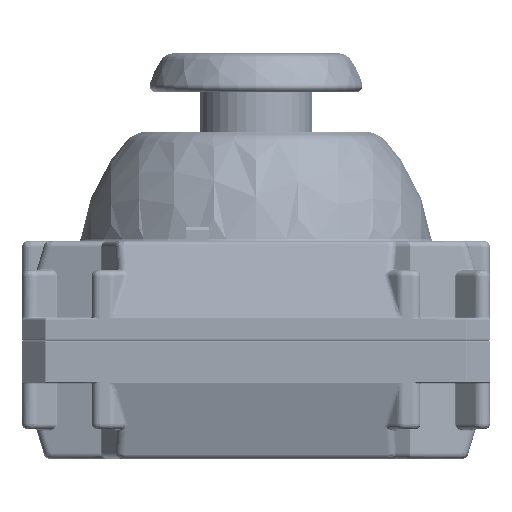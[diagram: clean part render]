
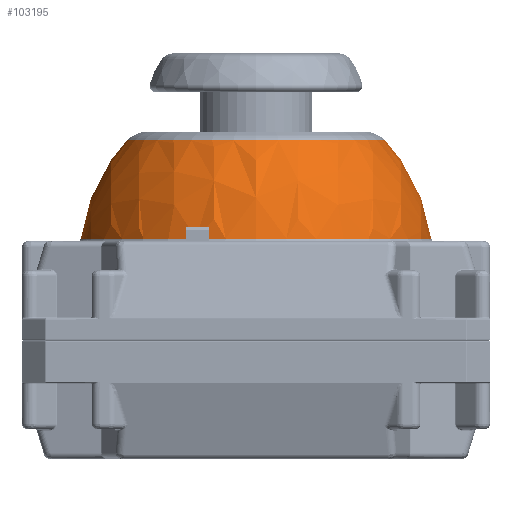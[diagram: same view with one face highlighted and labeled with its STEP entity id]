
A CAD part, front view. The second image highlights one B-rep face of the part: STEP entity #103195.
In plain terms, the highlighted spherical face has radius 15.1 mm.
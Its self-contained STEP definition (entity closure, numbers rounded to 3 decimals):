
#842=SPHERICAL_SURFACE('',#112326,15.1);
#1009=FACE_BOUND('',#32235,.T.);
#26001=FACE_OUTER_BOUND('',#32234,.T.);
#32234=EDGE_LOOP('',(#79223));
#32235=EDGE_LOOP('',(#79224));
#39590=CIRCLE('',#112324,11.035);
#39592=CIRCLE('',#112327,14.978);
#46997=VERTEX_POINT('',#175111);
#46998=VERTEX_POINT('',#175115);
#58779=EDGE_CURVE('',#46997,#46997,#39590,.T.);
#58781=EDGE_CURVE('',#46998,#46998,#39592,.T.);
#79223=ORIENTED_EDGE('',*,*,#58781,.F.);
#79224=ORIENTED_EDGE('',*,*,#58779,.F.);
#103195=ADVANCED_FACE('',(#26001,#1009),#842,.T.);
#112324=AXIS2_PLACEMENT_3D('',#175112,#130977,#130978);
#112326=AXIS2_PLACEMENT_3D('',#175114,#130981,#130982);
#112327=AXIS2_PLACEMENT_3D('',#175116,#130983,#130984);
#130977=DIRECTION('center_axis',(0.,0.,
1.));
#130978=DIRECTION('ref_axis',(0.,-1.,0.));
#130981=DIRECTION('center_axis',(1.,0.,0.));
#130982=DIRECTION('ref_axis',(0.,1.,0.));
#130983=DIRECTION('center_axis',(0.,0.,
-1.));
#130984=DIRECTION('ref_axis',(0.,-1.,0.));
#175111=CARTESIAN_POINT('',(11.035,3.,17.107));
#175112=CARTESIAN_POINT('Origin',(0.,3.,
17.107));
#175114=CARTESIAN_POINT('Origin',(0.,3.,
6.8));
#175115=CARTESIAN_POINT('',(14.978,3.,8.718));
#175116=CARTESIAN_POINT('Origin',(0.,3.,
8.718));
